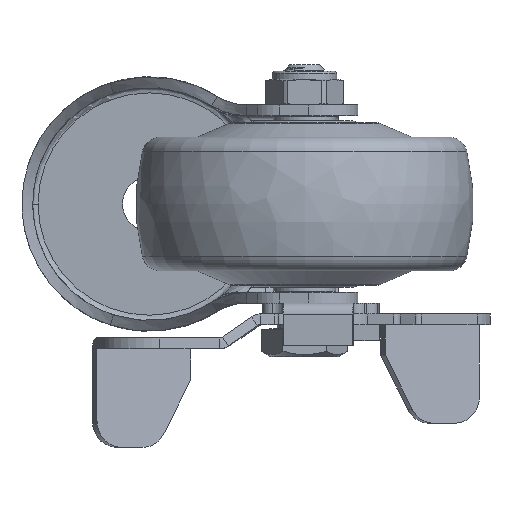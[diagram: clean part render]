
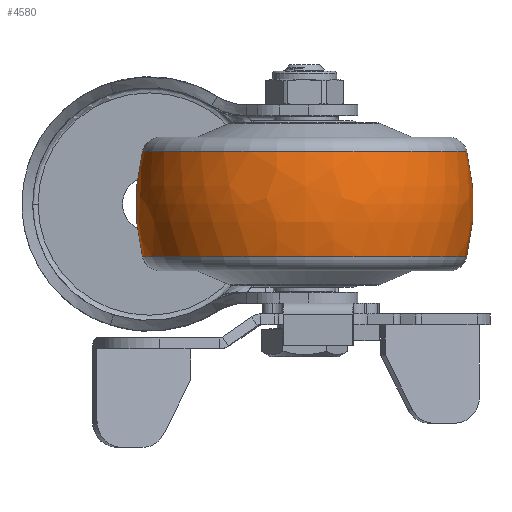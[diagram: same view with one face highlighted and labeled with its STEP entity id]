
A CAD part, front view. The second image highlights one B-rep face of the part: STEP entity #4580.
In plain terms, the highlighted free-form (B-spline) face has degree [3, 3] with [7, 4] control points.
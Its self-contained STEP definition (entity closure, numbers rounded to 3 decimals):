
#4066=CARTESIAN_POINT('',(0.,-8.5,0.));
#4067=DIRECTION('',(0.,0.,1.));
#4068=DIRECTION('',(0.247,0.969,0.));
#4069=AXIS2_PLACEMENT_3D('',#4066,#4067,#4068);
#4071=CARTESIAN_POINT('',(0.,8.5,0.));
#4072=DIRECTION('',(0.,0.,-1.));
#4073=DIRECTION('',(0.247,-0.969,0.));
#4074=AXIS2_PLACEMENT_3D('',#4071,#4072,#4073);
#4076=CARTESIAN_POINT('',(9.863,0.,0.));
#4077=DIRECTION('',(-1.,0.,0.));
#4078=DIRECTION('',(0.,1.,0.));
#4079=AXIS2_PLACEMENT_3D('',#4076,#4077,#4078);
#4101=CARTESIAN_POINT('',(-9.863,0.,0.));
#4102=DIRECTION('',(-1.,0.,0.));
#4103=DIRECTION('',(0.,1.,0.));
#4104=AXIS2_PLACEMENT_3D('',#4101,#4102,#4103);
#4231=CARTESIAN_POINT('',(9.863,30.265,0.));
#4233=VERTEX_POINT('',#4231);
#4234=CARTESIAN_POINT('',(-9.863,30.265,0.));
#4235=VERTEX_POINT('',#4234);
#4271=CARTESIAN_POINT('',(9.863,-30.265,0.));
#4273=VERTEX_POINT('',#4271);
#4274=CARTESIAN_POINT('',(-9.863,-30.265,0.));
#4275=VERTEX_POINT('',#4274);
#4542=CARTESIAN_POINT('',(-10.249,-30.105,
1.894));
#4543=CARTESIAN_POINT('',(-3.494,-31.892,
2.006));
#4544=CARTESIAN_POINT('',(3.494,-31.892,2.006));
#4545=CARTESIAN_POINT('',(10.249,-30.105,1.894));
#4546=CARTESIAN_POINT('',(-10.249,-31.271,
-16.633));
#4547=CARTESIAN_POINT('',(-3.494,-33.127,
-17.62));
#4548=CARTESIAN_POINT('',(3.494,-33.127,
-17.62));
#4549=CARTESIAN_POINT('',(10.249,-31.271,
-16.633));
#4550=CARTESIAN_POINT('',(-10.249,-18.563,
-30.165));
#4551=CARTESIAN_POINT('',(-3.494,-19.665,
-31.955));
#4552=CARTESIAN_POINT('',(3.494,-19.665,
-31.955));
#4553=CARTESIAN_POINT('',(10.249,-18.563,
-30.165));
#4554=CARTESIAN_POINT('',(-10.249,0.,-30.165));
#4555=CARTESIAN_POINT('',(-3.494,0.,-31.955));
#4556=CARTESIAN_POINT('',(3.494,0.,-31.955));
#4557=CARTESIAN_POINT('',(10.249,0.,-30.165));
#4558=CARTESIAN_POINT('',(-10.249,18.563,
-30.165));
#4559=CARTESIAN_POINT('',(-3.494,19.665,
-31.955));
#4560=CARTESIAN_POINT('',(3.494,19.665,-31.955));
#4561=CARTESIAN_POINT('',(10.249,18.563,-30.165));
#4562=CARTESIAN_POINT('',(-10.249,31.271,
-16.633));
#4563=CARTESIAN_POINT('',(-3.494,33.127,
-17.62));
#4564=CARTESIAN_POINT('',(3.494,33.127,-17.62));
#4565=CARTESIAN_POINT('',(10.249,31.271,-16.633));
#4566=CARTESIAN_POINT('',(-10.249,30.105,1.894));
#4567=CARTESIAN_POINT('',(-3.494,31.892,2.006));
#4568=CARTESIAN_POINT('',(3.494,31.892,2.006));
#4569=CARTESIAN_POINT('',(10.249,30.105,1.894));
#4570=(BOUNDED_SURFACE()B_SPLINE_SURFACE(3,3,((#4542,#4543,#4544,#4545),(#4546,
#4547,#4548,#4549),(#4550,#4551,#4552,#4553),(#4554,#4555,#4556,#4557),(#4558,
#4559,#4560,#4561),(#4562,#4563,#4564,#4565),(#4566,#4567,#4568,#4569)),
.UNSPECIFIED.,.F.,.F.,.F.)B_SPLINE_SURFACE_WITH_KNOTS((4,3,4),(4,4),(0.,1.,
2.),(0.,1.),.UNSPECIFIED.)GEOMETRIC_REPRESENTATION_ITEM()RATIONAL_B_SPLINE_SURFACE(((1.207,1.181,1.181,1.207),(
0.953,0.932,0.932,0.953),(
0.953,0.932,0.932,0.953),(
1.207,1.181,1.181,1.207),(
0.953,0.932,0.932,0.953),(
0.953,0.932,0.932,0.953),(
1.207,1.181,1.181,1.207)))REPRESENTATION_ITEM('')SURFACE());
#4572=ORIENTED_EDGE('',*,*,#4571,.T.);
#4574=ORIENTED_EDGE('',*,*,#4573,.T.);
#4576=ORIENTED_EDGE('',*,*,#4575,.F.);
#4577=ORIENTED_EDGE('',*,*,#4535,.F.);
#4578=EDGE_LOOP('',(#4572,#4574,#4576,#4577));
#4579=FACE_OUTER_BOUND('',#4578,.F.);
#4070=CIRCLE('',#4069,40.);
#4075=CIRCLE('',#4074,40.);
#4080=CIRCLE('',#4079,30.265);
#4105=CIRCLE('',#4104,30.265);
#4535=EDGE_CURVE('',#4233,#4273,#4080,.T.);
#4571=EDGE_CURVE('',#4233,#4235,#4070,.T.);
#4573=EDGE_CURVE('',#4235,#4275,#4105,.T.);
#4575=EDGE_CURVE('',#4273,#4275,#4075,.T.);
#4580=ADVANCED_FACE('',(#4579),#4570,.T.);
